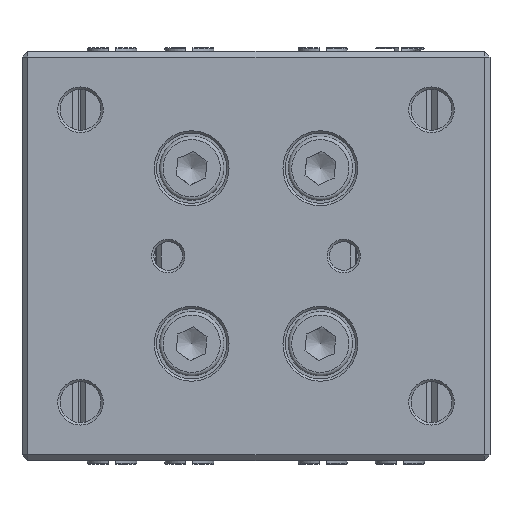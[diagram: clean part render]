
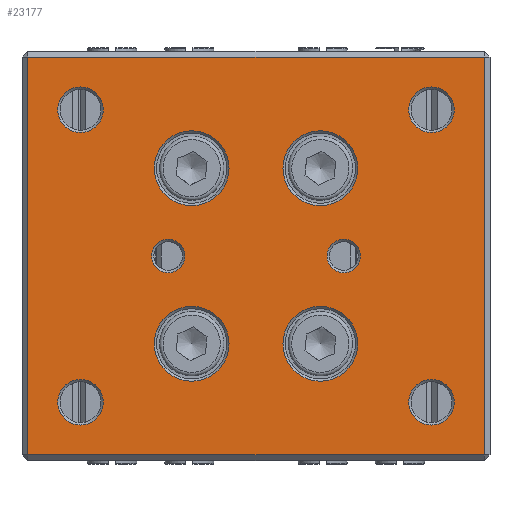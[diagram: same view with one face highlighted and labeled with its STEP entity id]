
A CAD part, front view. The second image highlights one B-rep face of the part: STEP entity #23177.
In plain terms, the highlighted planar face has unit normal (0, -1, 0).
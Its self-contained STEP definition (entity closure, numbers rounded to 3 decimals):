
#464=FACE_BOUND('',#3628,.T.);
#465=FACE_BOUND('',#3629,.T.);
#466=FACE_BOUND('',#3630,.T.);
#467=FACE_BOUND('',#3631,.T.);
#468=FACE_BOUND('',#3632,.T.);
#469=FACE_BOUND('',#3633,.T.);
#470=FACE_BOUND('',#3634,.T.);
#471=FACE_BOUND('',#3635,.T.);
#472=FACE_BOUND('',#3636,.T.);
#473=FACE_BOUND('',#3637,.T.);
#1035=CIRCLE('',#24806,3.2);
#1038=CIRCLE('',#24811,3.2);
#1045=CIRCLE('',#24822,3.2);
#1048=CIRCLE('',#24827,3.2);
#1060=CIRCLE('',#24847,1.95);
#1062=CIRCLE('',#24851,1.95);
#1074=CIRCLE('',#24871,1.95);
#1076=CIRCLE('',#24875,1.95);
#1079=CIRCLE('',#24881,1.43);
#1082=CIRCLE('',#24885,1.43);
#2263=FACE_OUTER_BOUND('',#3627,.T.);
#3627=EDGE_LOOP('',(#19715,#19716,#19717,#19718));
#3628=EDGE_LOOP('',(#19719));
#3629=EDGE_LOOP('',(#19720));
#3630=EDGE_LOOP('',(#19721));
#3631=EDGE_LOOP('',(#19722));
#3632=EDGE_LOOP('',(#19723));
#3633=EDGE_LOOP('',(#19724));
#3634=EDGE_LOOP('',(#19725));
#3635=EDGE_LOOP('',(#19726));
#3636=EDGE_LOOP('',(#19727));
#3637=EDGE_LOOP('',(#19728));
#6122=LINE('',#39122,#8318);
#6123=LINE('',#39124,#8319);
#6124=LINE('',#39126,#8320);
#6125=LINE('',#39127,#8321);
#8318=VECTOR('',#30115,10.);
#8319=VECTOR('',#30116,10.);
#8320=VECTOR('',#30117,10.);
#8321=VECTOR('',#30118,10.);
#10457=VERTEX_POINT('',#38800);
#10460=VERTEX_POINT('',#38810);
#10467=VERTEX_POINT('',#38830);
#10470=VERTEX_POINT('',#38840);
#10482=VERTEX_POINT('',#38878);
#10484=VERTEX_POINT('',#38886);
#10496=VERTEX_POINT('',#38924);
#10498=VERTEX_POINT('',#38932);
#10512=VERTEX_POINT('',#38966);
#10515=VERTEX_POINT('',#38974);
#10561=VERTEX_POINT('',#39120);
#10562=VERTEX_POINT('',#39121);
#10563=VERTEX_POINT('',#39123);
#10564=VERTEX_POINT('',#39125);
#13523=EDGE_CURVE('',#10457,#10457,#1035,.T.);
#13528=EDGE_CURVE('',#10460,#10460,#1038,.T.);
#13537=EDGE_CURVE('',#10467,#10467,#1045,.T.);
#13542=EDGE_CURVE('',#10470,#10470,#1048,.T.);
#13560=EDGE_CURVE('',#10482,#10482,#1060,.T.);
#13564=EDGE_CURVE('',#10484,#10484,#1062,.T.);
#13582=EDGE_CURVE('',#10496,#10496,#1074,.T.);
#13586=EDGE_CURVE('',#10498,#10498,#1076,.T.);
#13601=EDGE_CURVE('',#10512,#10512,#1079,.T.);
#13605=EDGE_CURVE('',#10515,#10515,#1082,.T.);
#13676=EDGE_CURVE('',#10561,#10562,#6122,.T.);
#13677=EDGE_CURVE('',#10563,#10561,#6123,.T.);
#13678=EDGE_CURVE('',#10564,#10563,#6124,.T.);
#13679=EDGE_CURVE('',#10562,#10564,#6125,.T.);
#19715=ORIENTED_EDGE('',*,*,#13676,.F.);
#19716=ORIENTED_EDGE('',*,*,#13677,.F.);
#19717=ORIENTED_EDGE('',*,*,#13678,.F.);
#19718=ORIENTED_EDGE('',*,*,#13679,.F.);
#19719=ORIENTED_EDGE('',*,*,#13605,.F.);
#19720=ORIENTED_EDGE('',*,*,#13586,.F.);
#19721=ORIENTED_EDGE('',*,*,#13564,.F.);
#19722=ORIENTED_EDGE('',*,*,#13542,.F.);
#19723=ORIENTED_EDGE('',*,*,#13528,.F.);
#19724=ORIENTED_EDGE('',*,*,#13523,.F.);
#19725=ORIENTED_EDGE('',*,*,#13537,.F.);
#19726=ORIENTED_EDGE('',*,*,#13560,.F.);
#19727=ORIENTED_EDGE('',*,*,#13582,.F.);
#19728=ORIENTED_EDGE('',*,*,#13601,.F.);
#21198=PLANE('',#24917);
#23177=ADVANCED_FACE('',(#2263,#464,#465,#466,#467,#468,#469,#470,#471,
#472,#473),#21198,.T.);
#24806=AXIS2_PLACEMENT_3D('',#38802,#29800,#29801);
#24811=AXIS2_PLACEMENT_3D('',#38812,#29812,#29813);
#24822=AXIS2_PLACEMENT_3D('',#38832,#29836,#29837);
#24827=AXIS2_PLACEMENT_3D('',#38842,#29848,#29849);
#24847=AXIS2_PLACEMENT_3D('',#38880,#29894,#29895);
#24851=AXIS2_PLACEMENT_3D('',#38888,#29904,#29905);
#24871=AXIS2_PLACEMENT_3D('',#38926,#29950,#29951);
#24875=AXIS2_PLACEMENT_3D('',#38934,#29960,#29961);
#24881=AXIS2_PLACEMENT_3D('',#38968,#29983,#29984);
#24885=AXIS2_PLACEMENT_3D('',#38976,#29992,#29993);
#24917=AXIS2_PLACEMENT_3D('',#39119,#30113,#30114);
#29800=DIRECTION('center_axis',(0.,-1.,0.));
#29801=DIRECTION('ref_axis',(1.,0.,0.));
#29812=DIRECTION('center_axis',(0.,-1.,0.));
#29813=DIRECTION('ref_axis',(1.,0.,0.));
#29836=DIRECTION('center_axis',(0.,-1.,0.));
#29837=DIRECTION('ref_axis',(1.,0.,0.));
#29848=DIRECTION('center_axis',(0.,-1.,0.));
#29849=DIRECTION('ref_axis',(1.,0.,0.));
#29894=DIRECTION('center_axis',(0.,-1.,0.));
#29895=DIRECTION('ref_axis',(-1.,0.,0.));
#29904=DIRECTION('center_axis',(0.,-1.,0.));
#29905=DIRECTION('ref_axis',(-1.,0.,0.));
#29950=DIRECTION('center_axis',(0.,-1.,0.));
#29951=DIRECTION('ref_axis',(-1.,0.,0.));
#29960=DIRECTION('center_axis',(0.,-1.,0.));
#29961=DIRECTION('ref_axis',(-1.,0.,0.));
#29983=DIRECTION('center_axis',(0.,-1.,0.));
#29984=DIRECTION('ref_axis',(1.,0.,0.));
#29992=DIRECTION('center_axis',(0.,-1.,0.));
#29993=DIRECTION('ref_axis',(1.,0.,0.));
#30113=DIRECTION('center_axis',(0.,-1.,0.));
#30114=DIRECTION('ref_axis',(-1.,0.,0.));
#30115=DIRECTION('',(1.,0.,0.));
#30116=DIRECTION('',(0.,0.,1.));
#30117=DIRECTION('',(-1.,0.,0.));
#30118=DIRECTION('',(0.,0.,-1.));
#38800=CARTESIAN_POINT('',(-31.397,0.,25.));
#38802=CARTESIAN_POINT('Origin',(-28.197,0.,
25.));
#38810=CARTESIAN_POINT('',(-42.397,0.,25.));
#38812=CARTESIAN_POINT('Origin',(-39.197,0.,
25.));
#38830=CARTESIAN_POINT('',(-31.397,0.,10.));
#38832=CARTESIAN_POINT('Origin',(-28.197,0.,
10.));
#38840=CARTESIAN_POINT('',(-42.397,0.,10.));
#38842=CARTESIAN_POINT('Origin',(-39.197,0.,
10.));
#38878=CARTESIAN_POINT('',(-46.747,0.,30.));
#38880=CARTESIAN_POINT('Origin',(-48.697,0.,
30.));
#38886=CARTESIAN_POINT('',(-16.747,0.,30.));
#38888=CARTESIAN_POINT('Origin',(-18.697,0.,
30.));
#38924=CARTESIAN_POINT('',(-46.747,0.,5.));
#38926=CARTESIAN_POINT('Origin',(-48.697,0.,
5.));
#38932=CARTESIAN_POINT('',(-16.747,0.,5.));
#38934=CARTESIAN_POINT('Origin',(-18.697,0.,
5.));
#38966=CARTESIAN_POINT('',(-42.626,0.,17.5));
#38968=CARTESIAN_POINT('Origin',(-41.197,0.,
17.5));
#38974=CARTESIAN_POINT('',(-27.626,0.,17.5));
#38976=CARTESIAN_POINT('Origin',(-26.197,0.,
17.5));
#39119=CARTESIAN_POINT('Origin',(-13.697,0.,
35.));
#39120=CARTESIAN_POINT('',(-53.197,0.,34.5));
#39121=CARTESIAN_POINT('',(-14.197,0.,34.5));
#39122=CARTESIAN_POINT('',(-23.697,0.,34.5));
#39123=CARTESIAN_POINT('',(-53.197,0.,0.5));
#39124=CARTESIAN_POINT('',(-53.197,0.,35.));
#39125=CARTESIAN_POINT('',(-14.197,0.,0.5));
#39126=CARTESIAN_POINT('',(-23.697,0.,0.5));
#39127=CARTESIAN_POINT('',(-14.197,0.,35.));
